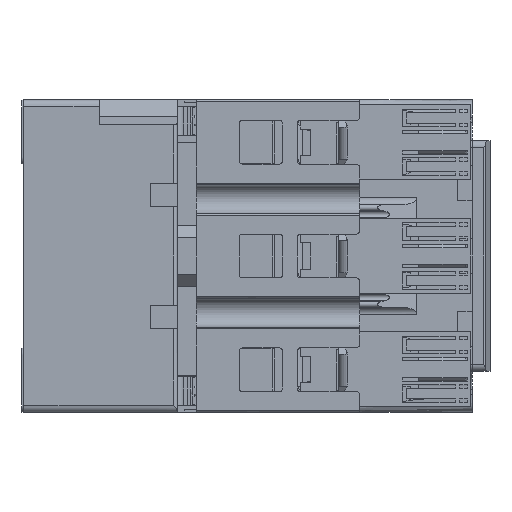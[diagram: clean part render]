
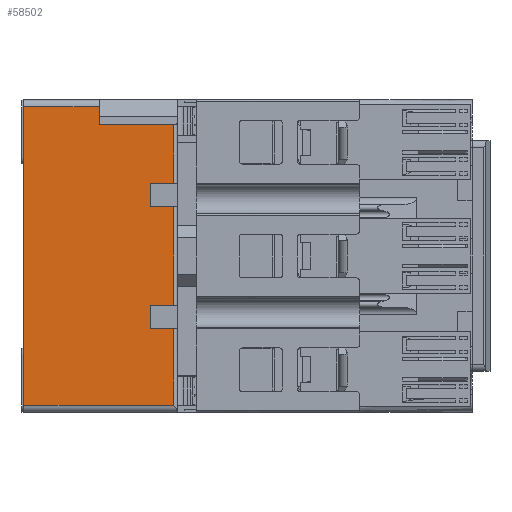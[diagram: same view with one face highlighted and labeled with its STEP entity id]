
A CAD part, front view. The second image highlights one B-rep face of the part: STEP entity #58502.
In plain terms, the highlighted planar face has unit normal (0, -1, 0).
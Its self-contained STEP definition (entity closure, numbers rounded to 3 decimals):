
#774 = VERTEX_POINT ( 'NONE', #5829 ) ;
#973 = DIRECTION ( 'NONE',  ( 0., 0., -1. ) ) ;
#1106 = CARTESIAN_POINT ( 'NONE',  ( -131.2, -62.5, 97.5 ) ) ;
#1734 = LINE ( 'NONE', #25467, #37594 ) ;
#1863 = CARTESIAN_POINT ( 'NONE',  ( -95.6, -62.5, 35.1 ) ) ;
#2032 = LINE ( 'NONE', #57716, #59866 ) ;
#2102 = ORIENTED_EDGE ( 'NONE', *, *, #36781, .T. ) ;
#5115 = EDGE_CURVE ( 'NONE', #52962, #17960, #16869, .T. ) ;
#5829 = CARTESIAN_POINT ( 'NONE',  ( -89., -62.5, 92.5 ) ) ;
#5904 = VECTOR ( 'NONE', #58623, 1000. ) ;
#6155 = DIRECTION ( 'NONE',  ( -1., 0., 0. ) ) ;
#6197 = LINE ( 'NONE', #38392, #29651 ) ;
#6554 = DIRECTION ( 'NONE',  ( 0., 0., 1. ) ) ;
#7682 = EDGE_CURVE ( 'NONE', #774, #34696, #30041, .T. ) ;
#7948 = DIRECTION ( 'NONE',  ( 0., 0., -1. ) ) ;
#8075 = CARTESIAN_POINT ( 'NONE',  ( -95.6, -62.5, 69.3 ) ) ;
#8151 = ORIENTED_EDGE ( 'NONE', *, *, #58497, .T. ) ;
#8306 = LINE ( 'NONE', #8075, #31759 ) ;
#8782 = VECTOR ( 'NONE', #39945, 1000. ) ;
#10157 = LINE ( 'NONE', #11277, #39402 ) ;
#10799 = ORIENTED_EDGE ( 'NONE', *, *, #49048, .T. ) ;
#11027 = ORIENTED_EDGE ( 'NONE', *, *, #7682, .F. ) ;
#11277 = CARTESIAN_POINT ( 'NONE',  ( -95.6, -62.5, 75.9 ) ) ;
#11483 = VERTEX_POINT ( 'NONE', #12581 ) ;
#12048 = DIRECTION ( 'NONE',  ( 1., 0., 0. ) ) ;
#12581 = CARTESIAN_POINT ( 'NONE',  ( -89., -62.5, 13.5 ) ) ;
#13034 = LINE ( 'NONE', #38504, #59862 ) ;
#13236 = ORIENTED_EDGE ( 'NONE', *, *, #26697, .F. ) ;
#13400 = LINE ( 'NONE', #29499, #33865 ) ;
#15966 = DIRECTION ( 'NONE',  ( 0., 0., -1. ) ) ;
#16869 = LINE ( 'NONE', #26509, #5904 ) ;
#16871 = AXIS2_PLACEMENT_3D ( 'NONE', #39284, #43961, #15966 ) ;
#17094 = EDGE_CURVE ( 'NONE', #17654, #51634, #43591, .T. ) ;
#17562 = VECTOR ( 'NONE', #7948, 1000. ) ;
#17654 = VERTEX_POINT ( 'NONE', #44474 ) ;
#17960 = VERTEX_POINT ( 'NONE', #1106 ) ;
#18328 = EDGE_LOOP ( 'NONE', ( #57569, #2102, #59466, #20671, #8151, #28200, #13236, #37698, #19117, #10799, #11027, #36377, #44375, #46523 ) ) ;
#19117 = ORIENTED_EDGE ( 'NONE', *, *, #20328, .F. ) ;
#20223 = CARTESIAN_POINT ( 'NONE',  ( -95.6, -62.5, 75.9 ) ) ;
#20328 = EDGE_CURVE ( 'NONE', #36593, #45107, #10157, .T. ) ;
#20671 = ORIENTED_EDGE ( 'NONE', *, *, #22929, .F. ) ;
#21201 = LINE ( 'NONE', #25839, #8782 ) ;
#22397 = EDGE_CURVE ( 'NONE', #59563, #11483, #6197, .T. ) ;
#22929 = EDGE_CURVE ( 'NONE', #30875, #59563, #1734, .T. ) ;
#25467 = CARTESIAN_POINT ( 'NONE',  ( -95.6, -62.5, 35.1 ) ) ;
#25839 = CARTESIAN_POINT ( 'NONE',  ( -116.2, -62.5, 97.5 ) ) ;
#26069 = VERTEX_POINT ( 'NONE', #32096 ) ;
#26509 = CARTESIAN_POINT ( 'NONE',  ( -131.2, -62.5, 11.5 ) ) ;
#26697 = EDGE_CURVE ( 'NONE', #54008, #51634, #13034, .T. ) ;
#26936 = DIRECTION ( 'NONE',  ( 1., 0., 0. ) ) ;
#27989 = CARTESIAN_POINT ( 'NONE',  ( -89., -62.5, 41.7 ) ) ;
#28200 = ORIENTED_EDGE ( 'NONE', *, *, #17094, .T. ) ;
#29499 = CARTESIAN_POINT ( 'NONE',  ( -38.3, -62.5, 92.5 ) ) ;
#29651 = VECTOR ( 'NONE', #973, 1000. ) ;
#29871 = CARTESIAN_POINT ( 'NONE',  ( -110., -62.5, 99.5 ) ) ;
#30041 = LINE ( 'NONE', #44445, #17562 ) ;
#30195 = EDGE_CURVE ( 'NONE', #774, #48415, #13400, .T. ) ;
#30245 = CARTESIAN_POINT ( 'NONE',  ( -131.2, -62.5, 13.5 ) ) ;
#30875 = VERTEX_POINT ( 'NONE', #58626 ) ;
#31298 = FACE_OUTER_BOUND ( 'NONE', #18328, .T. ) ;
#31643 = CARTESIAN_POINT ( 'NONE',  ( -110., -62.5, 92.5 ) ) ;
#31759 = VECTOR ( 'NONE', #26936, 1000. ) ;
#32096 = CARTESIAN_POINT ( 'NONE',  ( -110., -62.5, 97.5 ) ) ;
#32636 = VECTOR ( 'NONE', #12048, 1000. ) ;
#32781 = LINE ( 'NONE', #1863, #56199 ) ;
#33865 = VECTOR ( 'NONE', #6155, 1000. ) ;
#34506 = DIRECTION ( 'NONE',  ( 0., 0., -1. ) ) ;
#34552 = PLANE ( 'NONE',  #16871 ) ;
#34566 = DIRECTION ( 'NONE',  ( 0., 0., -1. ) ) ;
#34696 = VERTEX_POINT ( 'NONE', #37630 ) ;
#36377 = ORIENTED_EDGE ( 'NONE', *, *, #30195, .T. ) ;
#36593 = VERTEX_POINT ( 'NONE', #20223 ) ;
#36781 = EDGE_CURVE ( 'NONE', #52962, #11483, #55961, .T. ) ;
#37594 = VECTOR ( 'NONE', #48742, 1000. ) ;
#37630 = CARTESIAN_POINT ( 'NONE',  ( -89., -62.5, 75.9 ) ) ;
#37698 = ORIENTED_EDGE ( 'NONE', *, *, #43727, .F. ) ;
#38392 = CARTESIAN_POINT ( 'NONE',  ( -89., -62.5, 99.5 ) ) ;
#38504 = CARTESIAN_POINT ( 'NONE',  ( -89., -62.5, 99.5 ) ) ;
#39284 = CARTESIAN_POINT ( 'NONE',  ( -116.2, -62.5, 99.5 ) ) ;
#39402 = VECTOR ( 'NONE', #34566, 1000. ) ;
#39945 = DIRECTION ( 'NONE',  ( -1., 0., 0. ) ) ;
#40042 = EDGE_CURVE ( 'NONE', #26069, #48415, #46005, .T. ) ;
#40043 = CARTESIAN_POINT ( 'NONE',  ( -95.6, -62.5, 41.7 ) ) ;
#42038 = VECTOR ( 'NONE', #59284, 1000. ) ;
#42918 = CARTESIAN_POINT ( 'NONE',  ( -95.6, -62.5, 69.3 ) ) ;
#43591 = LINE ( 'NONE', #40043, #32636 ) ;
#43727 = EDGE_CURVE ( 'NONE', #45107, #54008, #8306, .T. ) ;
#43961 = DIRECTION ( 'NONE',  ( 0., -1., 0. ) ) ;
#44375 = ORIENTED_EDGE ( 'NONE', *, *, #40042, .F. ) ;
#44445 = CARTESIAN_POINT ( 'NONE',  ( -89., -62.5, 99.5 ) ) ;
#44474 = CARTESIAN_POINT ( 'NONE',  ( -95.6, -62.5, 41.7 ) ) ;
#45107 = VERTEX_POINT ( 'NONE', #42918 ) ;
#46005 = LINE ( 'NONE', #29871, #57041 ) ;
#46523 = ORIENTED_EDGE ( 'NONE', *, *, #56312, .T. ) ;
#48415 = VERTEX_POINT ( 'NONE', #31643 ) ;
#48742 = DIRECTION ( 'NONE',  ( 1., 0., 0. ) ) ;
#49048 = EDGE_CURVE ( 'NONE', #36593, #34696, #2032, .T. ) ;
#51634 = VERTEX_POINT ( 'NONE', #27989 ) ;
#52641 = DIRECTION ( 'NONE',  ( 0., 0., -1. ) ) ;
#52962 = VERTEX_POINT ( 'NONE', #30245 ) ;
#53022 = CARTESIAN_POINT ( 'NONE',  ( -89., -62.5, 35.1 ) ) ;
#54008 = VERTEX_POINT ( 'NONE', #57868 ) ;
#54594 = CARTESIAN_POINT ( 'NONE',  ( -89., -62.5, 13.5 ) ) ;
#55961 = LINE ( 'NONE', #54594, #42038 ) ;
#56199 = VECTOR ( 'NONE', #6554, 1000. ) ;
#56312 = EDGE_CURVE ( 'NONE', #26069, #17960, #21201, .T. ) ;
#57041 = VECTOR ( 'NONE', #34506, 1000. ) ;
#57569 = ORIENTED_EDGE ( 'NONE', *, *, #5115, .F. ) ;
#57716 = CARTESIAN_POINT ( 'NONE',  ( -95.6, -62.5, 75.9 ) ) ;
#57868 = CARTESIAN_POINT ( 'NONE',  ( -89., -62.5, 69.3 ) ) ;
#57911 = DIRECTION ( 'NONE',  ( 1., 0., 0. ) ) ;
#58497 = EDGE_CURVE ( 'NONE', #30875, #17654, #32781, .T. ) ;
#58502 = ADVANCED_FACE ( 'NONE', ( #31298 ), #34552, .T. ) ;
#58623 = DIRECTION ( 'NONE',  ( 0., 0., 1. ) ) ;
#58626 = CARTESIAN_POINT ( 'NONE',  ( -95.6, -62.5, 35.1 ) ) ;
#59284 = DIRECTION ( 'NONE',  ( 1., 0., 0. ) ) ;
#59466 = ORIENTED_EDGE ( 'NONE', *, *, #22397, .F. ) ;
#59563 = VERTEX_POINT ( 'NONE', #53022 ) ;
#59862 = VECTOR ( 'NONE', #52641, 1000. ) ;
#59866 = VECTOR ( 'NONE', #57911, 1000. ) ;
